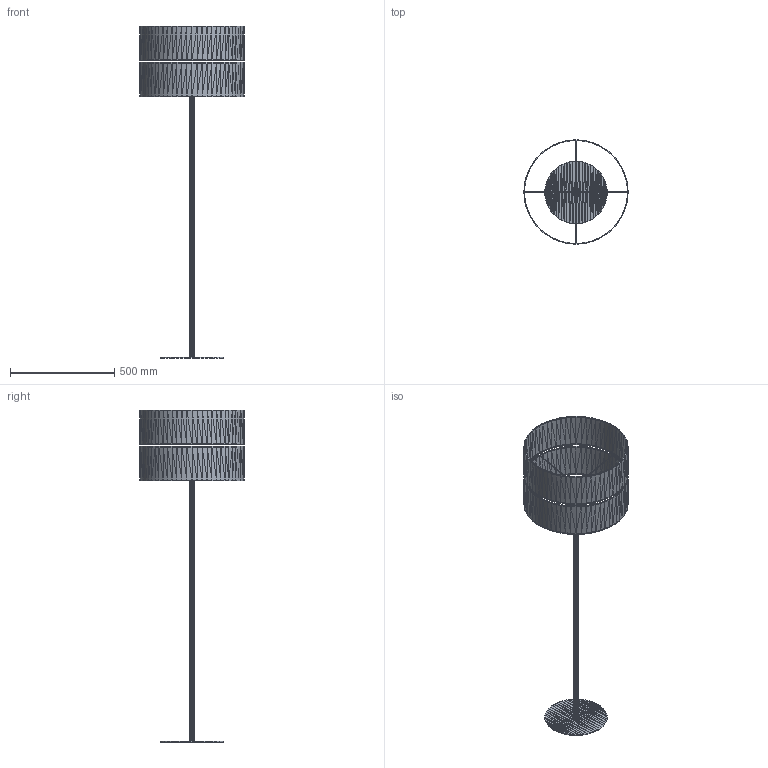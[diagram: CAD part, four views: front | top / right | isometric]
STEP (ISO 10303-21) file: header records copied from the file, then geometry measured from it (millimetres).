
FILE_DESCRIPTION(('FreeCAD Model'),'2;1');
FILE_NAME('Open CASCADE Shape Model','2022-11-30T08:28:06',('Author'),( ''),'Open CASCADE STEP processor 7.6','FreeCAD','Unknown');
FILE_SCHEMA(('AUTOMOTIVE_DESIGN { 1 0 10303 214 1 1 1 1 }'));
Length unit declared in the file: millimetre
Products named in the file (37): Unnamed; Mesh037 (Solid); Mesh001001 (Solid); Mesh002001 (Solid); Mesh003001 (Solid); Mesh004001 (Solid); Mesh005001 (Solid); Mesh006001 (Solid); Mesh007001 (Solid); Mesh008001 (Solid); Mesh009001 (Solid); Mesh010001 (Solid); Mesh012001 (Solid); Mesh013001 (Solid); Mesh014001 (Solid); Mesh015001 (Solid); Mesh016001 (Solid); Mesh017001 (Solid); Mesh018001 (Solid); Mesh019001 (Solid); Mesh020001 (Solid); Mesh021001 (Solid); Mesh022001 (Solid); Mesh023001 (Solid); Mesh024001 (Solid); Mesh025001 (Solid); Mesh026001 (Solid); Mesh027001 (Solid); Mesh028001 (Solid); Mesh029001 (Solid); Mesh030001 (Solid); Mesh031001 (Solid); Mesh032001 (Solid); Mesh033001 (Solid); Mesh034001 (Solid); Mesh035001 (Solid); Mesh036001 (Solid)
Assembly tree (36 placements, depth 2):
  Unnamed
    Mesh037 (Solid)
    Mesh001001 (Solid)
    Mesh002001 (Solid)
    Mesh003001 (Solid)
    Mesh004001 (Solid)
    Mesh005001 (Solid)
    Mesh006001 (Solid)
    Mesh007001 (Solid)
    Mesh008001 (Solid)
    Mesh009001 (Solid)
    Mesh010001 (Solid)
    Mesh012001 (Solid)
    Mesh013001 (Solid)
    Mesh014001 (Solid)
    Mesh015001 (Solid)
    Mesh016001 (Solid)
    Mesh017001 (Solid)
    Mesh018001 (Solid)
    Mesh019001 (Solid)
    Mesh020001 (Solid)
    Mesh021001 (Solid)
    Mesh022001 (Solid)
    Mesh023001 (Solid)
    Mesh024001 (Solid)
    Mesh025001 (Solid)
    Mesh026001 (Solid)
    Mesh027001 (Solid)
    Mesh028001 (Solid)
    Mesh029001 (Solid)
    Mesh030001 (Solid)
    Mesh031001 (Solid)
    Mesh032001 (Solid)
    Mesh033001 (Solid)
    Mesh034001 (Solid)
    Mesh035001 (Solid)
    Mesh036001 (Solid)
Bounding box: 499.5 x 499.5 x 1593 mm (x, y, z)
Volume: 953916.5 mm3; surface area: 875874.6 mm2
Topology: 25 solids, 87 shells, 6666 faces, 10527 edges, 3915 vertices
Faces by surface type: plane 6666
Entity records: 265038 total; most frequent: DIRECTION 43882, CARTESIAN_POINT 41018, LINE 30316, VECTOR 30316, ORIENTED_EDGE 20238, PCURVE 19745, DEFINITIONAL_REPRESENTATION 19745, EDGE_CURVE 10571
